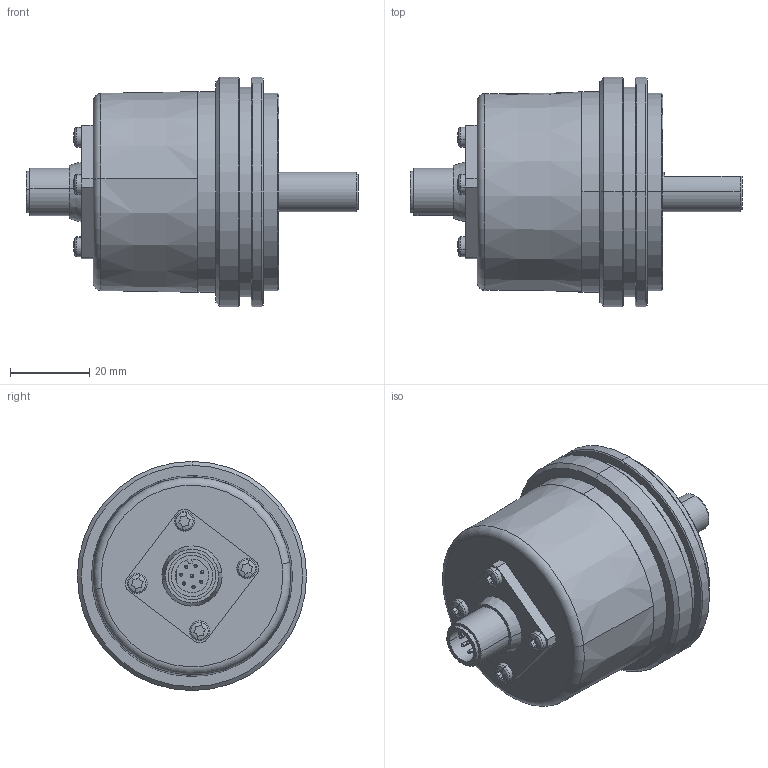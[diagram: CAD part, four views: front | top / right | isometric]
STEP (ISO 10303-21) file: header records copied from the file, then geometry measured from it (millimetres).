
FILE_DESCRIPTION (( 'STEP AP214' ), '1' );
FILE_NAME ('5000.B3X3.XXXX.STEP', '2011-01-04T08:55:32', ( 'admin' ), ( 'Fritz Kübler GmbH' ), 'SwSTEP 2.0', 'SolidWorks 2009', '' );
FILE_SCHEMA (( 'AUTOMOTIVE_DESIGN' ));
Length unit declared in the file: millimetre
Products named in the file (1): 5000.B3X3.XXXX
Bounding box: 84 x 58 x 58 mm (x, y, z)
Surface area: 17293.1 mm2 (no closed solid volume)
Topology: 0 solids, 17 shells, 202 faces, 521 edges, 331 vertices
Faces by surface type: plane 82, cylinder 55, sphere 24, cone 23, torus 18
Entity records: 8183 total; most frequent: DIRECTION 1166, CARTESIAN_POINT 1011, ORIENTED_EDGE 900, EDGE_CURVE 487, AXIS2_PLACEMENT_3D 478, VERTEX_POINT 315, CIRCLE 275, EDGE_LOOP 230
